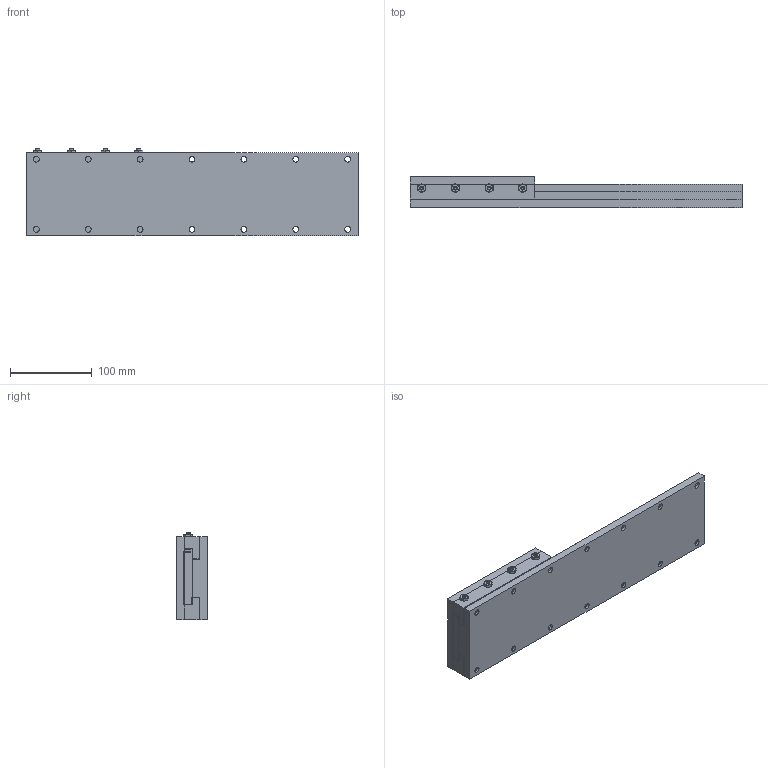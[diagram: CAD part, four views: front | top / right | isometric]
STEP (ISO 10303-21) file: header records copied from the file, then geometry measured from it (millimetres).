
FILE_DESCRIPTION (( 'STEP AP214' ), '1' );
FILE_NAME ('SW04-SL06-BL16.STEP', '2010-10-04T17:47:46', ( ' ' ), ( '' ), 'SwSTEP 2.0', 'SolidWorks 2010', '' );
FILE_SCHEMA (( 'AUTOMOTIVE_DESIGN' ));
Length unit declared in the file: inch
Products named in the file (11): Gen2 Top plate_04x06 TPLATE; Gen2 SADDLE_04x06 SADDLE; Gen2 Gib_04x06 GIB; Gen2 Adj Gib_04x06 ADJ GIB; _MSHXNUT_MSHXNUT 0.190-32-D-N; Gen2 Bar_04x06 BAR; _SSCUPSOC_SSCUPSKT 0.19-32x0.875-HX-N; Gen2 BASE_04x16 BASE; SW04-SL06-BL16; Gen2 Hardplate_04x16 HPLATE; Gen2 Baseplate_04x16 BASE
Assembly tree (16 placements, depth 3):
  SW04-SL06-BL16
    Gen2 SADDLE_04x06 SADDLE
      Gen2 Top plate_04x06 TPLATE
      _MSHXNUT_MSHXNUT 0.190-32-D-N  x4
      Gen2 Gib_04x06 GIB
      _SSCUPSOC_SSCUPSKT 0.19-32x0.875-HX-N  x4
      Gen2 Bar_04x06 BAR
      Gen2 Adj Gib_04x06 ADJ GIB
    Gen2 BASE_04x16 BASE
      Gen2 Hardplate_04x16 HPLATE
      Gen2 Baseplate_04x16 BASE
Bounding box: 406.4 x 38.1 x 107.16 mm (x, y, z)
Volume: 1082451.5 mm3; surface area: 270501.3 mm2
Topology: 19 solids, 19 shells, 352 faces, 792 edges, 492 vertices
Faces by surface type: plane 160, cylinder 104, cone 88
Entity records: 7167 total; most frequent: CARTESIAN_POINT 1190, DIRECTION 1150, ORIENTED_EDGE 1004, EDGE_CURVE 502, AXIS2_PLACEMENT_3D 431, VERTEX_POINT 327, LINE 288, VECTOR 288
